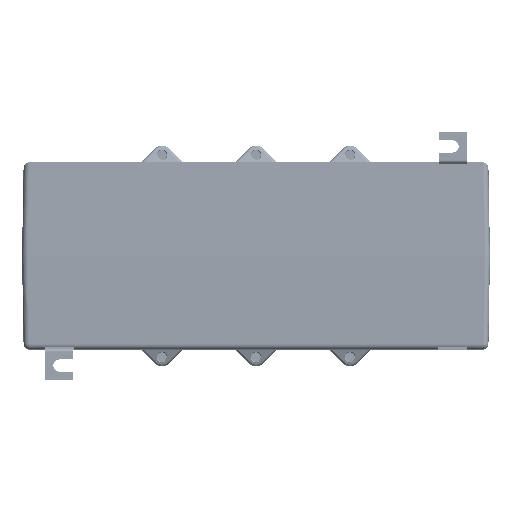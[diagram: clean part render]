
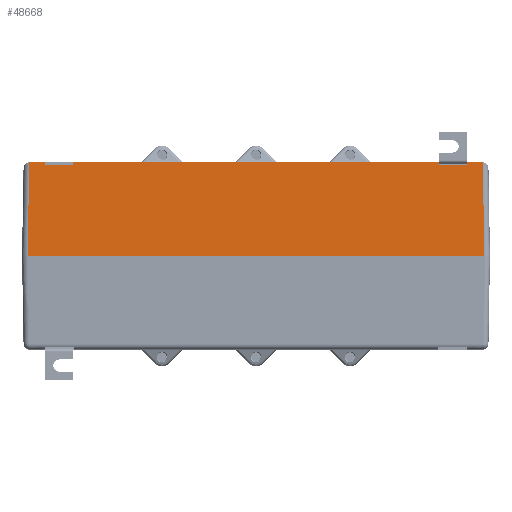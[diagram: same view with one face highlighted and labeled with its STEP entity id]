
A CAD part, front view. The second image highlights one B-rep face of the part: STEP entity #48668.
In plain terms, the highlighted planar face has unit normal (0, -1, 0.018).
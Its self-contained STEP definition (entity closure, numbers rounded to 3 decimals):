
#1350=PLANE('',#51586);
#4899=FACE_OUTER_BOUND('',#7619,.T.);
#7619=EDGE_LOOP('',(#37448,#37449,#37450,#37451,#37452,#37453,#37454,#37455,
#37456,#37457,#37458,#37459,#37460,#37461));
#11093=LINE('',#93633,#15317);
#12273=LINE('',#109873,#16497);
#12622=LINE('',#113061,#16846);
#12628=LINE('',#113077,#16852);
#12632=LINE('',#113084,#16856);
#12695=LINE('',#113304,#16919);
#12696=LINE('',#113305,#16920);
#12697=LINE('',#113307,#16921);
#12698=LINE('',#113309,#16922);
#12699=LINE('',#113310,#16923);
#12700=LINE('',#113312,#16924);
#12701=LINE('',#113314,#16925);
#12702=LINE('',#113315,#16926);
#12703=LINE('',#113316,#16927);
#15317=VECTOR('',#55523,1000.);
#16497=VECTOR('',#58117,1000.);
#16846=VECTOR('',#58704,1000.);
#16852=VECTOR('',#58714,1000.);
#16856=VECTOR('',#58718,1000.);
#16919=VECTOR('',#58879,1000.);
#16920=VECTOR('',#58880,10.);
#16921=VECTOR('',#58881,1000.);
#16922=VECTOR('',#58882,1000.);
#16923=VECTOR('',#58883,10.);
#16924=VECTOR('',#58884,1000.);
#16925=VECTOR('',#58885,1000.);
#16926=VECTOR('',#58886,1000.);
#16927=VECTOR('',#58887,1000.);
#20392=VERTEX_POINT('',#93626);
#20395=VERTEX_POINT('',#93631);
#21291=VERTEX_POINT('',#109864);
#21295=VERTEX_POINT('',#109871);
#21779=VERTEX_POINT('',#113052);
#21781=VERTEX_POINT('',#113058);
#21782=VERTEX_POINT('',#113060);
#21789=VERTEX_POINT('',#113074);
#21790=VERTEX_POINT('',#113076);
#21793=VERTEX_POINT('',#113082);
#21902=VERTEX_POINT('',#113306);
#21903=VERTEX_POINT('',#113308);
#21904=VERTEX_POINT('',#113311);
#21905=VERTEX_POINT('',#113313);
#25376=EDGE_CURVE('',#20392,#20395,#11093,.T.);
#27015=EDGE_CURVE('',#21291,#21295,#12273,.T.);
#27549=EDGE_CURVE('',#21781,#21782,#12622,.T.);
#27557=EDGE_CURVE('',#21789,#21790,#12628,.T.);
#27561=EDGE_CURVE('',#21793,#21779,#12632,.T.);
#27672=EDGE_CURVE('',#20395,#21782,#12695,.T.);
#27673=EDGE_CURVE('',#21291,#21781,#12696,.T.);
#27674=EDGE_CURVE('',#21902,#21295,#12697,.T.);
#27675=EDGE_CURVE('',#21903,#21902,#12698,.T.);
#27676=EDGE_CURVE('',#21779,#21903,#12699,.T.);
#27677=EDGE_CURVE('',#21793,#21904,#12700,.T.);
#27678=EDGE_CURVE('',#21905,#21904,#12701,.T.);
#27679=EDGE_CURVE('',#21790,#21905,#12702,.T.);
#27680=EDGE_CURVE('',#21789,#20392,#12703,.T.);
#37448=ORIENTED_EDGE('',*,*,#25376,.T.);
#37449=ORIENTED_EDGE('',*,*,#27672,.T.);
#37450=ORIENTED_EDGE('',*,*,#27549,.F.);
#37451=ORIENTED_EDGE('',*,*,#27673,.F.);
#37452=ORIENTED_EDGE('',*,*,#27015,.T.);
#37453=ORIENTED_EDGE('',*,*,#27674,.F.);
#37454=ORIENTED_EDGE('',*,*,#27675,.F.);
#37455=ORIENTED_EDGE('',*,*,#27676,.F.);
#37456=ORIENTED_EDGE('',*,*,#27561,.F.);
#37457=ORIENTED_EDGE('',*,*,#27677,.T.);
#37458=ORIENTED_EDGE('',*,*,#27678,.F.);
#37459=ORIENTED_EDGE('',*,*,#27679,.F.);
#37460=ORIENTED_EDGE('',*,*,#27557,.F.);
#37461=ORIENTED_EDGE('',*,*,#27680,.T.);
#48668=ADVANCED_FACE('',(#4899),#1350,.T.);
#51586=AXIS2_PLACEMENT_3D('',#113303,#58877,#58878);
#55523=DIRECTION('',(1.,0.,0.));
#58117=DIRECTION('',(0.,-0.017,-1.));
#58704=DIRECTION('',(1.,0.,0.));
#58714=DIRECTION('',(1.,0.,0.));
#58718=DIRECTION('',(1.,0.,0.));
#58877=DIRECTION('center_axis',(0.,-1.,
0.017));
#58878=DIRECTION('ref_axis',(0.,-0.017,-1.));
#58879=DIRECTION('',(-0.017,0.017,1.));
#58880=DIRECTION('',(0.,0.017,1.));
#58881=DIRECTION('',(1.,0.,0.));
#58882=DIRECTION('',(0.,-0.017,-1.));
#58883=DIRECTION('',(0.,-0.017,-1.));
#58884=DIRECTION('',(0.,-0.017,-1.));
#58885=DIRECTION('',(1.,0.,0.));
#58886=DIRECTION('',(0.,-0.017,-1.));
#58887=DIRECTION('',(-0.017,-0.017,-1.));
#93626=CARTESIAN_POINT('',(-122.,-110.,0.));
#93631=CARTESIAN_POINT('',(122.,-110.,0.));
#93633=CARTESIAN_POINT('',(125.,-110.,0.));
#109864=CARTESIAN_POINT('',(112.5,-109.129,49.888));
#109871=CARTESIAN_POINT('',(112.5,-109.155,48.4));
#109873=CARTESIAN_POINT('',(112.5,-110.,0.));
#113052=CARTESIAN_POINT('',(97.5,-109.127,50.));
#113058=CARTESIAN_POINT('',(112.5,-109.127,50.));
#113060=CARTESIAN_POINT('',(121.128,-109.127,50.));
#113061=CARTESIAN_POINT('',(125.,-109.127,50.));
#113074=CARTESIAN_POINT('',(-121.128,-109.127,50.));
#113076=CARTESIAN_POINT('',(-112.5,-109.127,50.));
#113077=CARTESIAN_POINT('',(125.,-109.127,50.));
#113082=CARTESIAN_POINT('',(-97.5,-109.127,50.));
#113084=CARTESIAN_POINT('',(125.,-109.127,50.));
#113303=CARTESIAN_POINT('Origin',(125.,-110.,0.));
#113304=CARTESIAN_POINT('',(122.001,-110.001,-0.052));
#113305=CARTESIAN_POINT('',(112.5,-109.686,17.998));
#113306=CARTESIAN_POINT('',(97.5,-109.155,48.4));
#113307=CARTESIAN_POINT('',(125.,-109.155,48.4));
#113308=CARTESIAN_POINT('',(97.5,-109.129,49.888));
#113309=CARTESIAN_POINT('',(97.5,-110.,0.));
#113310=CARTESIAN_POINT('',(97.5,-109.686,17.998));
#113311=CARTESIAN_POINT('',(-97.5,-109.155,48.4));
#113312=CARTESIAN_POINT('',(-97.5,-110.,0.));
#113313=CARTESIAN_POINT('',(-112.5,-109.155,48.4));
#113314=CARTESIAN_POINT('',(125.,-109.155,48.4));
#113315=CARTESIAN_POINT('',(-112.5,-110.,0.));
#113316=CARTESIAN_POINT('',(-121.925,-109.925,4.309));
